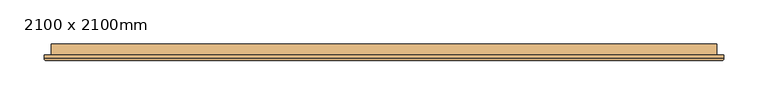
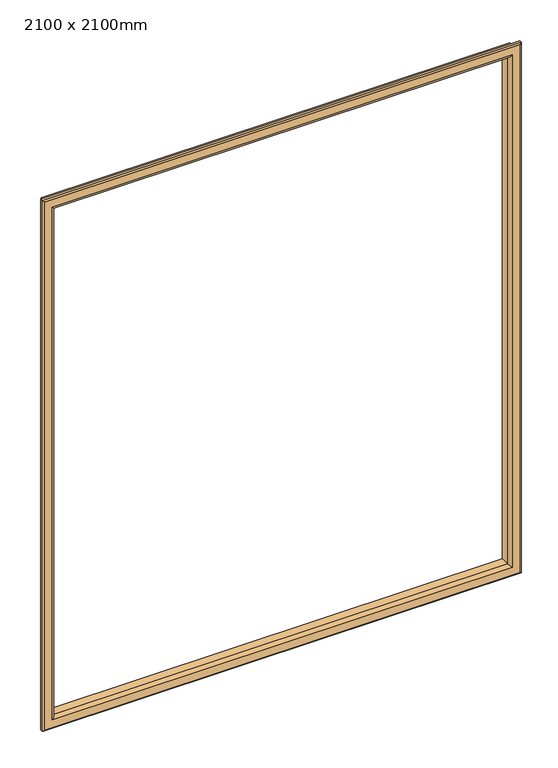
"""IFC4 building model written with IfcOpenShell, lengths in millimetres: door geometry, Дверь-Наружная-Двойная-Две_Свет : 2100 x 2100mm."""

from ifc_helpers import new_model, si_unit, frame, origin, place, context, project, spatial, ellipse_curve, source, transform, mapped, element, save
from ifc_brep_helpers import plane_surface, cylinder_surface, advanced_brep


def door_2100_x_2100mm_f00e42ec(model_context):
    return source(origin(), model_context, "Body", "AdvancedBrep", [
        advanced_brep(
        [(-900.0, 158.85, 1100.0), (-900.0, 146.35, 1100.0), (-900.0, 146.35, 1980.0), (-900.0, 158.85, 1980.0), (-888.0, 145.35, 1112.0), (-888.0, 158.85, 1112.0), (-888.0, 158.85, 1968.0), (-888.0, 145.35, 1968.0), (-893.0, 140.35, 1107.0), (-893.0, 140.35, 1973.0), (-908.0, 142.35, 1092.0), (-906.0, 140.35, 1094.0), (-906.0, 140.35, 1986.0), (-908.0, 142.35, 1988.0), (-908.0, 146.35, 1092.0), (-908.0, 146.35, 1988.0), (-150.0, 146.35, 1980.0), (-150.0, 158.85, 1980.0), (-162.0, 158.85, 1968.0), (-162.0, 145.35, 1968.0), (-157.0, 140.35, 1973.0), (-144.0, 140.35, 1986.0), (-142.0, 142.35, 1988.0), (-142.0, 146.35, 1988.0), (-150.0, 146.35, 1100.0), (-150.0, 158.85, 1100.0), (-162.0, 158.85, 1112.0), (-162.0, 145.35, 1112.0), (-157.0, 140.35, 1107.0), (-144.0, 140.35, 1094.0), (-142.0, 142.35, 1092.0), (-142.0, 146.35, 1092.0)],
        [
            (0, 1),
            (1, 2),
            (2, 3),
            (3, 0),
            (4, 5),
            (5, 6),
            (6, 7),
            (7, 4),
            (8, 4, ellipse_curve(frame((-893.0, 145.35, 1107.0), z_axis=(-0.7071067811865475, 0.0, 0.7071067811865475), x_axis=(-0.7071067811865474, 0.0, -0.7071067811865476)), 7.0710678, 5.0)),
            (7, 9, ellipse_curve(frame((-893.0, 145.35, 1973.0), z_axis=(-0.7071067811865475, 0.0, -0.7071067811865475), x_axis=(0.7071067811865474, 0.0, -0.7071067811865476)), 7.0710678, 5.0)),
            (9, 8),
            (10, 11, ellipse_curve(frame((-906.0, 142.35, 1094.0), z_axis=(-0.7071067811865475, 0.0, 0.7071067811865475), x_axis=(-0.7071067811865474, 0.0, -0.7071067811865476)), 2.8284271, 2.0)),
            (11, 12),
            (12, 13, ellipse_curve(frame((-906.0, 142.35, 1986.0), z_axis=(-0.7071067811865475, 0.0, -0.7071067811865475), x_axis=(0.7071067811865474, 0.0, -0.7071067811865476)), 2.8284271, 2.0)),
            (13, 10),
            (14, 10),
            (13, 15),
            (15, 14),
            (2, 16),
            (16, 17),
            (17, 3),
            (6, 18),
            (18, 19),
            (19, 7),
            (19, 20, ellipse_curve(frame((-157.0, 145.35, 1973.0), z_axis=(-0.7071067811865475, 0.0, 0.7071067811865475), x_axis=(-0.7071067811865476, 0.0, -0.7071067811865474)), 7.0710678, 5.0)),
            (20, 9),
            (12, 21),
            (21, 22, ellipse_curve(frame((-144.0, 142.35, 1986.0), z_axis=(-0.7071067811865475, 0.0, 0.7071067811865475), x_axis=(-0.7071067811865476, 0.0, -0.7071067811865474)), 2.8284271, 2.0)),
            (22, 13),
            (22, 23),
            (23, 15),
            (16, 24),
            (24, 25),
            (25, 17),
            (18, 26),
            (26, 27),
            (27, 19),
            (27, 28, ellipse_curve(frame((-157.0, 145.35, 1107.0), z_axis=(0.7071067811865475, 0.0, 0.7071067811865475), x_axis=(-0.7071067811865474, 0.0, 0.7071067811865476)), 7.0710678, 5.0)),
            (28, 20),
            (21, 29),
            (29, 30, ellipse_curve(frame((-144.0, 142.35, 1094.0), z_axis=(0.7071067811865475, 0.0, 0.7071067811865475), x_axis=(-0.7071067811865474, 0.0, 0.7071067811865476)), 2.8284271, 2.0)),
            (30, 22),
            (30, 31),
            (31, 23),
            (31, 14),
            (1, 24),
            (0, 25),
            (5, 26),
            (4, 27),
            (8, 28),
            (11, 29),
            (10, 30),
        ],
        [
            plane_surface(frame((-900.0, 146.35, 1100.0), z_axis=(-1.0, 0.0, 0.0), x_axis=(0.0, 0.0, 1.0))),
            plane_surface(frame((-888.0, 158.85, 1112.0), z_axis=(1.0, 0.0, 0.0), x_axis=(0.0, 0.0, 1.0))),
            cylinder_surface(frame((-893.0, 145.35, 1100.0), z_axis=(0.0, 0.0, -1.0), x_axis=(-1.0, 0.0, 0.0)), 5.0),
            cylinder_surface(frame((-906.0, 142.35, 1100.0), z_axis=(0.0, 0.0, -1.0), x_axis=(-1.0, 0.0, 0.0)), 2.0),
            plane_surface(frame((-908.0, 142.35, 1092.0), z_axis=(-1.0, 0.0, 0.0), x_axis=(0.0, 0.0, 1.0))),
            plane_surface(frame((-900.0, 146.35, 1980.0), z_axis=(0.0, 0.0, 1.0), x_axis=(1.0, 0.0, 0.0))),
            plane_surface(frame((-888.0, 158.85, 1968.0), z_axis=(0.0, 0.0, -1.0), x_axis=(1.0, 0.0, 0.0))),
            cylinder_surface(frame((-900.0, 145.35, 1973.0), z_axis=(-1.0, 0.0, 0.0), x_axis=(0.0, 0.0, 1.0)), 5.0),
            cylinder_surface(frame((-900.0, 142.35, 1986.0), z_axis=(-1.0, 0.0, 0.0), x_axis=(0.0, 0.0, 1.0)), 2.0),
            plane_surface(frame((-908.0, 142.35, 1988.0), z_axis=(0.0, 0.0, 1.0), x_axis=(1.0, 0.0, 0.0))),
            plane_surface(frame((-150.0, 146.35, 1980.0), z_axis=(1.0, 0.0, 0.0), x_axis=(0.0, 0.0, -1.0))),
            plane_surface(frame((-162.0, 158.85, 1968.0), z_axis=(-1.0, 0.0, 0.0), x_axis=(0.0, 0.0, -1.0))),
            cylinder_surface(frame((-157.0, 145.35, 1980.0), z_axis=(0.0, 0.0, 1.0), x_axis=(1.0, 0.0, 0.0)), 5.0),
            cylinder_surface(frame((-144.0, 142.35, 1980.0), z_axis=(0.0, 0.0, 1.0), x_axis=(1.0, 0.0, 0.0)), 2.0),
            plane_surface(frame((-142.0, 142.35, 1988.0), z_axis=(1.0, 0.0, 0.0), x_axis=(0.0, 0.0, -1.0))),
            plane_surface(frame((-142.0, 146.35, 1092.0), z_axis=(0.0, 1.0, 0.0), x_axis=(-1.0, 0.0, 0.0))),
            plane_surface(frame((-150.0, 146.35, 1100.0), z_axis=(0.0, 0.0, -1.0), x_axis=(-1.0, 0.0, 0.0))),
            plane_surface(frame((-150.0, 158.85, 1100.0), z_axis=(0.0, 1.0, 0.0), x_axis=(-1.0, 0.0, 0.0))),
            plane_surface(frame((-162.0, 158.85, 1112.0), z_axis=(0.0, 0.0, 1.0), x_axis=(-1.0, 0.0, 0.0))),
            cylinder_surface(frame((-150.0, 145.35, 1107.0), z_axis=(1.0, 0.0, 0.0), x_axis=(0.0, 0.0, -1.0)), 5.0),
            plane_surface(frame((-157.0, 140.35, 1107.0), z_axis=(0.0, -1.0, 0.0), x_axis=(-1.0, 0.0, 0.0))),
            cylinder_surface(frame((-150.0, 142.35, 1094.0), z_axis=(1.0, 0.0, 0.0), x_axis=(0.0, 0.0, -1.0)), 2.0),
            plane_surface(frame((-142.0, 142.35, 1092.0), z_axis=(0.0, 0.0, -1.0), x_axis=(-1.0, 0.0, 0.0))),
        ],
        [
            (0, [[1, 2, 3, 4]]),
            (1, [[5, 6, 7, 8]]),
            (2, [[9, -8, 10, 11]]),
            (3, [[12, 13, 14, 15]]),
            (4, [[16, -15, 17, 18]]),
            (5, [[-3, 19, 20, 21]]),
            (6, [[-7, 22, 23, 24]]),
            (7, [[-10, -24, 25, 26]]),
            (8, [[-14, 27, 28, 29]]),
            (9, [[-17, -29, 30, 31]]),
            (10, [[-20, 32, 33, 34]]),
            (11, [[-23, 35, 36, 37]]),
            (12, [[-25, -37, 38, 39]]),
            (13, [[-28, 40, 41, 42]]),
            (14, [[-30, -42, 43, 44]]),
            (15, [[-31, -44, 45, -18], [46, -32, -19, -2]]),
            (16, [[-33, -46, -1, 47]]),
            (17, [[-21, -34, -47, -4], [48, -35, -22, -6]]),
            (18, [[-36, -48, -5, 49]]),
            (19, [[-38, -49, -9, 50]]),
            (20, [[51, -40, -27, -13], [-26, -39, -50, -11]]),
            (21, [[-41, -51, -12, 52]]),
            (22, [[-43, -52, -16, -45]]),
        ],
    ),
    ])


if __name__ == "__main__":
    model = new_model("IFC4")
    model_context = context("Model", 3, world=origin())
    ifc_project = project(units=[si_unit("LENGTHUNIT", "METRE", prefix="MILLI")], contexts=[model_context])
    site = spatial("IfcSite", under=ifc_project)
    building = spatial("IfcBuilding", under=site)
    placement = place(None, origin())
    door_2100_x_2100mm_shape = door_2100_x_2100mm_f00e42ec(model_context)
    element("IfcDoor", 1, ObjectType="Дверь-Наружная-Двойная-Две_Свет : 2100 x 2100mm", at=placement, inside=building, context=model_context, shape_type="MappedRepresentation", body=[
        mapped(door_2100_x_2100mm_shape, transform((0.0, 0.0, 0.0), x_axis=(1.0, 0.0, 0.0), y_axis=(0.0, 1.0, 0.0), z_axis=(0.0, 0.0, 1.0))),
    ])
    save(model, "model.ifc")
